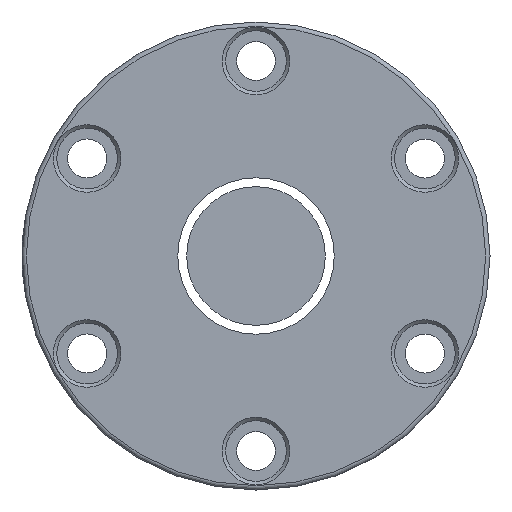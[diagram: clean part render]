
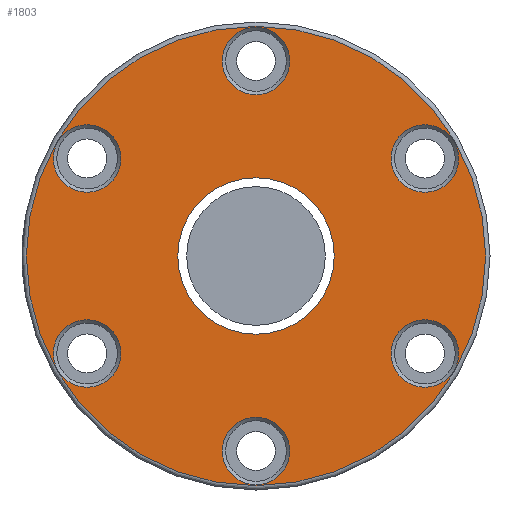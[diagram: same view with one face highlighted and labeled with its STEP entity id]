
A CAD part, left-side view. The second image highlights one B-rep face of the part: STEP entity #1803.
In plain terms, the highlighted planar face has unit normal (-1, 0, 0).
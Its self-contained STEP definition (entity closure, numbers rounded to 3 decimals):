
#7 = CARTESIAN_POINT ( 'NONE',  ( -166., 0., 53. ) ) ;
#10 = DIRECTION ( 'NONE',  ( 0., 0., 1. ) ) ;
#15 = ORIENTED_EDGE ( 'NONE', *, *, #861, .T. ) ;
#128 = EDGE_LOOP ( 'NONE', ( #1784 ) ) ;
#175 = CIRCLE ( 'NONE', #318, 18.05 ) ;
#239 = VERTEX_POINT ( 'NONE', #1129 ) ;
#265 = CARTESIAN_POINT ( 'NONE',  ( -166., 38.971, -14.7 ) ) ;
#317 = EDGE_LOOP ( 'NONE', ( #1711 ) ) ;
#318 = AXIS2_PLACEMENT_3D ( 'NONE', #617, #1536, #2465 ) ;
#353 = DIRECTION ( 'NONE',  ( 0., 0., 1. ) ) ;
#389 = EDGE_LOOP ( 'NONE', ( #2873 ) ) ;
#446 = PLANE ( 'NONE',  #567 ) ;
#471 = VERTEX_POINT ( 'NONE', #7 ) ;
#484 = EDGE_LOOP ( 'NONE', ( #1173 ) ) ;
#538 = EDGE_CURVE ( 'NONE', #239, #239, #1822, .T. ) ;
#550 = DIRECTION ( 'NONE',  ( 1., 0., 0. ) ) ;
#559 = VERTEX_POINT ( 'NONE', #2422 ) ;
#567 = AXIS2_PLACEMENT_3D ( 'NONE', #658, #2563, #10 ) ;
#617 = CARTESIAN_POINT ( 'NONE',  ( -166., 0., 0. ) ) ;
#658 = CARTESIAN_POINT ( 'NONE',  ( -166., 54., 0. ) ) ;
#684 = FACE_BOUND ( 'NONE', #389, .T. ) ;
#698 = CARTESIAN_POINT ( 'NONE',  ( -166., -38.971, 22.5 ) ) ;
#757 = CIRCLE ( 'NONE', #2547, 7.8 ) ;
#782 = EDGE_CURVE ( 'NONE', #471, #471, #1474, .T. ) ;
#810 = CIRCLE ( 'NONE', #1423, 7.8 ) ;
#854 = AXIS2_PLACEMENT_3D ( 'NONE', #1068, #2224, #2697 ) ;
#855 = EDGE_CURVE ( 'NONE', #934, #934, #1331, .T. ) ;
#861 = EDGE_CURVE ( 'NONE', #1386, #1386, #175, .T. ) ;
#866 = EDGE_LOOP ( 'NONE', ( #2105 ) ) ;
#934 = VERTEX_POINT ( 'NONE', #265 ) ;
#979 = CARTESIAN_POINT ( 'NONE',  ( -166., -38.971, -14.7 ) ) ;
#1024 = DIRECTION ( 'NONE',  ( 0., 0., 1. ) ) ;
#1038 = DIRECTION ( 'NONE',  ( -1., 0., 0. ) ) ;
#1040 = DIRECTION ( 'NONE',  ( 0., 0., 1. ) ) ;
#1068 = CARTESIAN_POINT ( 'NONE',  ( -166., 38.971, -22.5 ) ) ;
#1092 = AXIS2_PLACEMENT_3D ( 'NONE', #1634, #550, #2812 ) ;
#1118 = DIRECTION ( 'NONE',  ( 1., 0., 0. ) ) ;
#1129 = CARTESIAN_POINT ( 'NONE',  ( -166., 38.971, 30.3 ) ) ;
#1132 = FACE_BOUND ( 'NONE', #1189, .T. ) ;
#1159 = FACE_BOUND ( 'NONE', #1789, .T. ) ;
#1173 = ORIENTED_EDGE ( 'NONE', *, *, #538, .T. ) ;
#1189 = EDGE_LOOP ( 'NONE', ( #15 ) ) ;
#1198 = VERTEX_POINT ( 'NONE', #2836 ) ;
#1215 = CARTESIAN_POINT ( 'NONE',  ( -166., 0., 52.8 ) ) ;
#1331 = CIRCLE ( 'NONE', #854, 7.8 ) ;
#1386 = VERTEX_POINT ( 'NONE', #1859 ) ;
#1401 = DIRECTION ( 'NONE',  ( 0., 0., 1. ) ) ;
#1423 = AXIS2_PLACEMENT_3D ( 'NONE', #2158, #2176, #1024 ) ;
#1474 = CIRCLE ( 'NONE', #1620, 53. ) ;
#1483 = AXIS2_PLACEMENT_3D ( 'NONE', #1712, #2629, #353 ) ;
#1493 = CARTESIAN_POINT ( 'NONE',  ( -166., 0., 45. ) ) ;
#1496 = VERTEX_POINT ( 'NONE', #979 ) ;
#1506 = DIRECTION ( 'NONE',  ( 0., 0., 1. ) ) ;
#1534 = ORIENTED_EDGE ( 'NONE', *, *, #1703, .T. ) ;
#1536 = DIRECTION ( 'NONE',  ( 1., 0., 0. ) ) ;
#1620 = AXIS2_PLACEMENT_3D ( 'NONE', #2492, #1038, #1506 ) ;
#1634 = CARTESIAN_POINT ( 'NONE',  ( -166., 38.971, 22.5 ) ) ;
#1703 = EDGE_CURVE ( 'NONE', #1496, #1496, #810, .T. ) ;
#1711 = ORIENTED_EDGE ( 'NONE', *, *, #855, .T. ) ;
#1712 = CARTESIAN_POINT ( 'NONE',  ( -166., 0., -45. ) ) ;
#1784 = ORIENTED_EDGE ( 'NONE', *, *, #2337, .T. ) ;
#1789 = EDGE_LOOP ( 'NONE', ( #1534 ) ) ;
#1803 = ADVANCED_FACE ( 'NONE', ( #2079, #1159, #684, #2985, #2304, #2289, #2048, #1132 ), #446, .T. ) ;
#1822 = CIRCLE ( 'NONE', #1092, 7.8 ) ;
#1859 = CARTESIAN_POINT ( 'NONE',  ( -166., 0., -18.05 ) ) ;
#1900 = VERTEX_POINT ( 'NONE', #1215 ) ;
#1925 = EDGE_CURVE ( 'NONE', #559, #559, #757, .T. ) ;
#2048 = FACE_BOUND ( 'NONE', #866, .T. ) ;
#2079 = FACE_OUTER_BOUND ( 'NONE', #2582, .T. ) ;
#2105 = ORIENTED_EDGE ( 'NONE', *, *, #2662, .T. ) ;
#2158 = CARTESIAN_POINT ( 'NONE',  ( -166., -38.971, -22.5 ) ) ;
#2161 = CIRCLE ( 'NONE', #1483, 7.8 ) ;
#2176 = DIRECTION ( 'NONE',  ( 1., 0., 0. ) ) ;
#2224 = DIRECTION ( 'NONE',  ( 1., 0., 0. ) ) ;
#2289 = FACE_BOUND ( 'NONE', #317, .T. ) ;
#2304 = FACE_BOUND ( 'NONE', #484, .T. ) ;
#2337 = EDGE_CURVE ( 'NONE', #1900, #1900, #2504, .T. ) ;
#2419 = DIRECTION ( 'NONE',  ( 1., 0., 0. ) ) ;
#2422 = CARTESIAN_POINT ( 'NONE',  ( -166., -38.971, 30.3 ) ) ;
#2465 = DIRECTION ( 'NONE',  ( 0., 0., -1. ) ) ;
#2492 = CARTESIAN_POINT ( 'NONE',  ( -166., 0., 0. ) ) ;
#2504 = CIRCLE ( 'NONE', #2752, 7.8 ) ;
#2547 = AXIS2_PLACEMENT_3D ( 'NONE', #698, #1118, #1401 ) ;
#2563 = DIRECTION ( 'NONE',  ( -1., 0., 0. ) ) ;
#2582 = EDGE_LOOP ( 'NONE', ( #2797 ) ) ;
#2629 = DIRECTION ( 'NONE',  ( 1., 0., 0. ) ) ;
#2662 = EDGE_CURVE ( 'NONE', #1198, #1198, #2161, .T. ) ;
#2697 = DIRECTION ( 'NONE',  ( 0., 0., 1. ) ) ;
#2752 = AXIS2_PLACEMENT_3D ( 'NONE', #1493, #2419, #1040 ) ;
#2797 = ORIENTED_EDGE ( 'NONE', *, *, #782, .T. ) ;
#2812 = DIRECTION ( 'NONE',  ( 0., 0., 1. ) ) ;
#2836 = CARTESIAN_POINT ( 'NONE',  ( -166., 0., -37.2 ) ) ;
#2873 = ORIENTED_EDGE ( 'NONE', *, *, #1925, .T. ) ;
#2985 = FACE_BOUND ( 'NONE', #128, .T. ) ;
